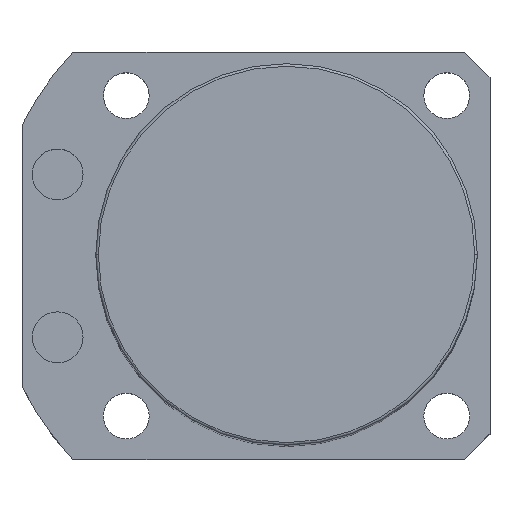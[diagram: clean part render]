
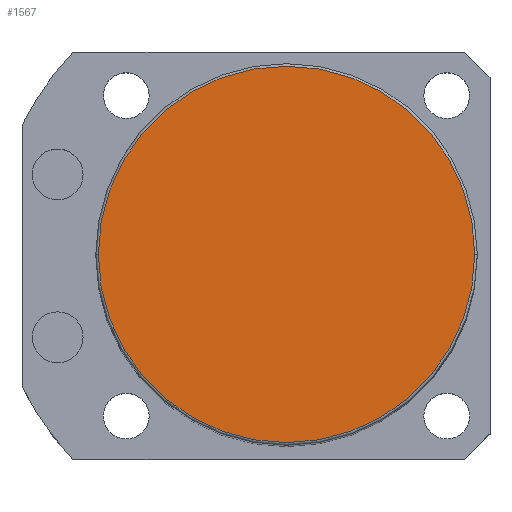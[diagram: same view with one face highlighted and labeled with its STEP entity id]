
A CAD part, top view. The second image highlights one B-rep face of the part: STEP entity #1567.
In plain terms, the highlighted planar face has unit normal (0, 0, 1).
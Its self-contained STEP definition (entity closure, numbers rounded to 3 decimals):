
#103 = CIRCLE ( 'NONE', #843, 37. ) ;
#152 = CARTESIAN_POINT ( 'NONE',  ( -37., 0., 180.5 ) ) ;
#242 = VERTEX_POINT ( 'NONE', #152 ) ;
#302 = CIRCLE ( 'NONE', #1802, 37. ) ;
#807 = AXIS2_PLACEMENT_3D ( 'NONE', #1248, #1833, #811 ) ;
#811 = DIRECTION ( 'NONE',  ( 1., 0., 0. ) ) ;
#843 = AXIS2_PLACEMENT_3D ( 'NONE', #1054, #2831, #2860 ) ;
#1054 = CARTESIAN_POINT ( 'NONE',  ( 0., 0., 180.5 ) ) ;
#1248 = CARTESIAN_POINT ( 'NONE',  ( 0., 0., 180.5 ) ) ;
#1567 = ADVANCED_FACE ( 'NONE', ( #1605 ), #2741, .T. ) ;
#1605 = FACE_OUTER_BOUND ( 'NONE', #2679, .T. ) ;
#1645 = CARTESIAN_POINT ( 'NONE',  ( 37., 0., 180.5 ) ) ;
#1701 = CARTESIAN_POINT ( 'NONE',  ( 0., 0., 180.5 ) ) ;
#1802 = AXIS2_PLACEMENT_3D ( 'NONE', #1701, #2623, #2164 ) ;
#1833 = DIRECTION ( 'NONE',  ( 0., 0., 1. ) ) ;
#1953 = EDGE_CURVE ( 'NONE', #2759, #242, #103, .T. ) ;
#2149 = ORIENTED_EDGE ( 'NONE', *, *, #1953, .T. ) ;
#2164 = DIRECTION ( 'NONE',  ( 1., 0., 0. ) ) ;
#2250 = EDGE_CURVE ( 'NONE', #242, #2759, #302, .T. ) ;
#2297 = ORIENTED_EDGE ( 'NONE', *, *, #2250, .T. ) ;
#2623 = DIRECTION ( 'NONE',  ( 0., 0., 1. ) ) ;
#2679 = EDGE_LOOP ( 'NONE', ( #2149, #2297 ) ) ;
#2741 = PLANE ( 'NONE',  #807 ) ;
#2759 = VERTEX_POINT ( 'NONE', #1645 ) ;
#2831 = DIRECTION ( 'NONE',  ( 0., 0., 1. ) ) ;
#2860 = DIRECTION ( 'NONE',  ( 1., 0., 0. ) ) ;
